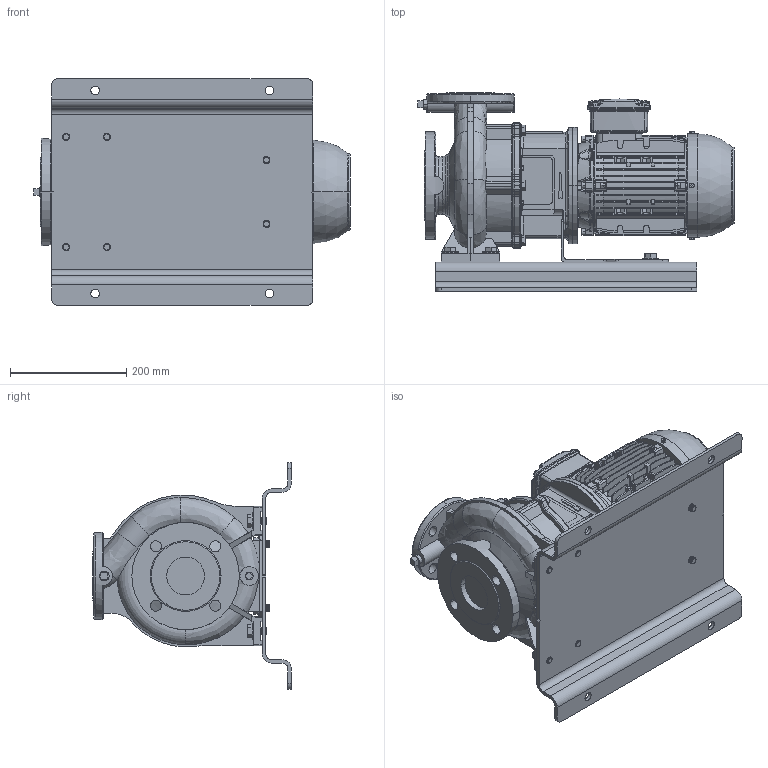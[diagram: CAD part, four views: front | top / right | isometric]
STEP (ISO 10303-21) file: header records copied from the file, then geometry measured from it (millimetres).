
FILE_DESCRIPTION (( 'STEP AP214' ), '1' );
FILE_NAME ('GSD4 40-160_1.1_(90SL)_W21_BP.STEP', '2024-08-08T00:17:45', ( '' ), ( '' ), 'SwSTEP 2.0', 'SolidWorks 2019', '' );
FILE_SCHEMA (( 'AUTOMOTIVE_DESIGN' ));
Length unit declared in the file: millimetre
Products named in the file (8): GSD4 40-160_1.1_(90SL)_W21_BP; 90S_L ALIE3_W21T_B5; N3S6 GSDA-361 F1-1832901-00; Parametric Flat Washer_M12; CGSD1-4133; 40-160-90S_L_______; Parametric bolt_SFT-A295B; Parametric bolt_SFT-A297B
Assembly tree (16 placements, depth 2):
  GSD4 40-160_1.1_(90SL)_W21_BP
    40-160-90S_L_______
    90S_L ALIE3_W21T_B5
    N3S6 GSDA-361 F1-1832901-00
    CGSD1-4133
    Parametric bolt_SFT-A295B  x2
    Parametric bolt_SFT-A297B  x4
    Parametric Flat Washer_M12  x6
Bounding box: 544.65 x 342 x 390 mm (x, y, z)
Volume: 13505070.3 mm3; surface area: 1504392 mm2
Topology: 19 solids, 23 shells, 3681 faces, 9680 edges, 6220 vertices
Faces by surface type: plane 1911, cylinder 1009, torus 306, bspline 254, cone 179, sphere 22
Entity records: 179614 total; most frequent: CARTESIAN_POINT 96162, ORIENTED_EDGE 18170, DIRECTION 16125, EDGE_CURVE 9085, VERTEX_POINT 5862, AXIS2_PLACEMENT_3D 5428, VECTOR 5269, LINE 5269
